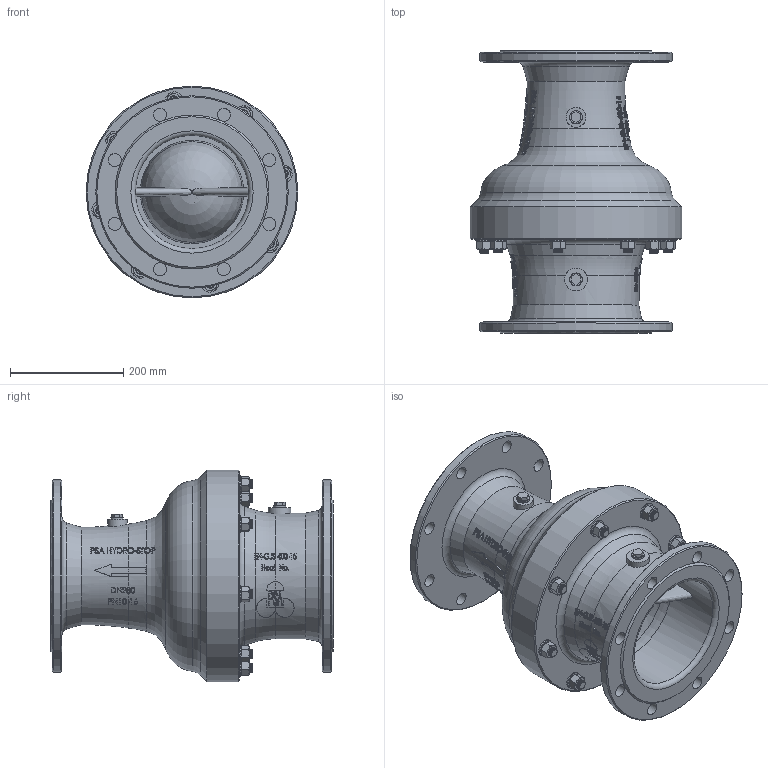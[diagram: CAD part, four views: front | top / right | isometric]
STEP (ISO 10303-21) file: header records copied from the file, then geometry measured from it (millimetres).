
FILE_DESCRIPTION(/* description */ ('PSA Hydro-Stop DN200 PN10'),/* implementation_level */ '2;1');
FILE_NAME(/* name */ 'PSA_Hydro-Stop_DN200_PN10',/* time_stamp */ '2024-10-09T11:04:23+02:00',/* author */ ('Christin-Michelle Fremgen'),/* organization */ ('PSA Wasserarmaturen GmbH'),/* preprocessor_version */ 'ST-DEVELOPER v18.104',/* originating_system */ 'Solid Edge',/* authorisation */ 'Unknown');
FILE_SCHEMA (('AUTOMOTIVE_DESIGN {1 0 10303 214 3 1 1}'));
Products named in the file (1): PSA_Hydro-Stop_DN200_PN10
Bounding box: 374 x 499.4 x 374 mm (x, y, z)
Volume: 2606585.9 mm3; surface area: 1349830.9 mm2
Topology: 85 solids, 86 shells, 2457 faces, 6116 edges, 3844 vertices
Faces by surface type: plane 761, cone 662, bspline 464, cylinder 387, torus 179, sphere 4
Full cylindrical faces by diameter (mm): 13.835 x20, 13.98 x2, 14 x56, 14.95 x2, 16 x201, 16.66 x2, 17 x8, 18 x10, 22 x2, 23 x17, 24 x8, 30 x8, 35 x1, 40 x1, 153 x1, 168 x1, 180 x1, 200 x1, 222 x1, 340 x2, 374 x1
Entity records: 99698 total; most frequent: CARTESIAN_POINT 33450, ORIENTED_EDGE 9682, DIRECTION 8797, EDGE_CURVE 4841, AXIS2_PLACEMENT_3D 3793, FACE_BOUND 3624, EDGE_LOOP 3622, VERTEX_POINT 3525
